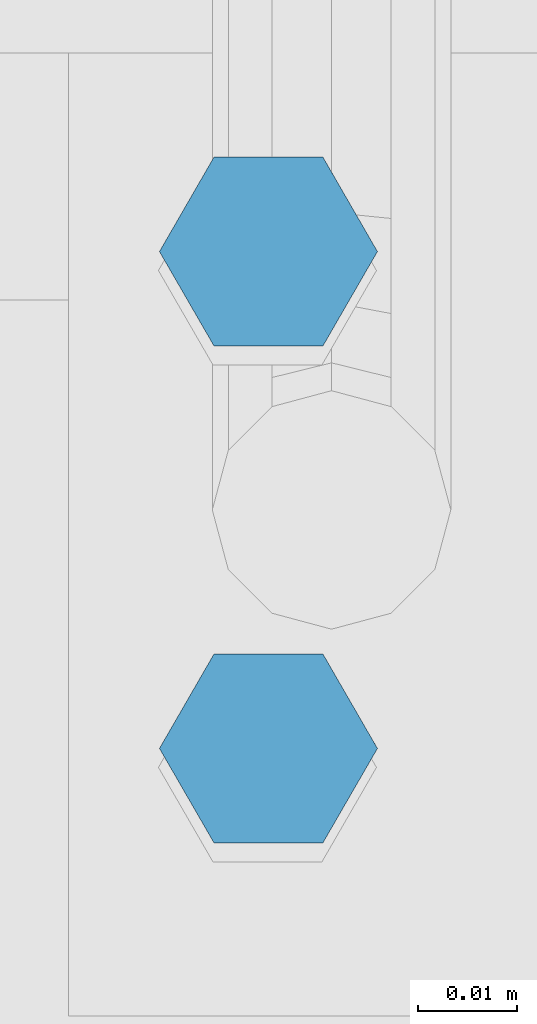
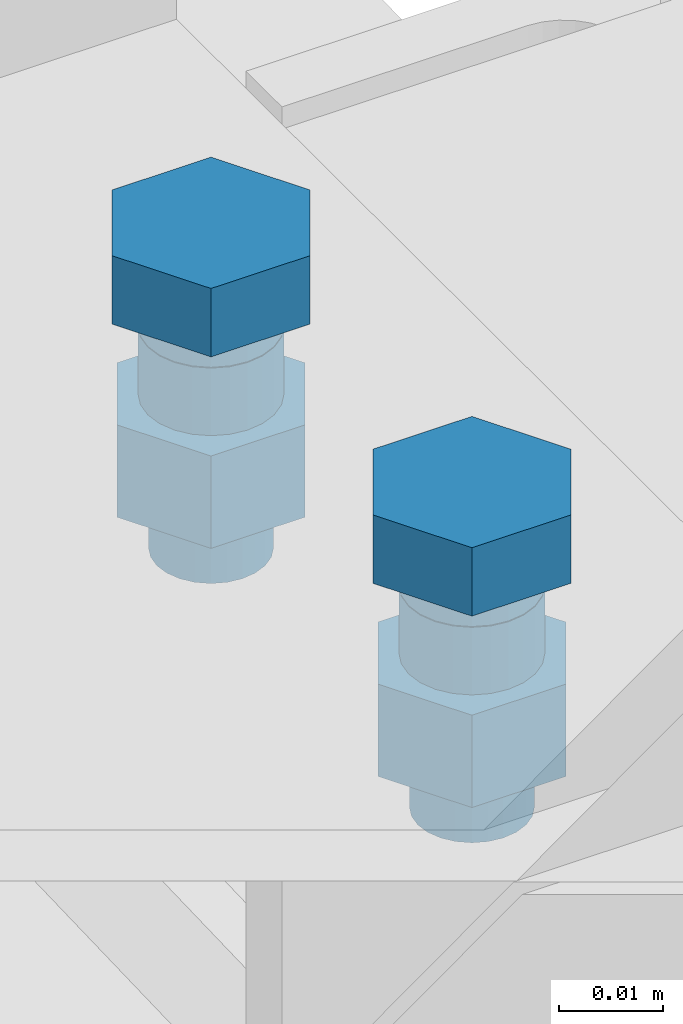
# One storey, part 19 of 21: 1 mechanical fastener.
"""IFC2X3 building model written with IfcOpenShell, lengths in millimetres."""

from ifc_helpers import new_model, si_unit, frame, origin_with_axes, place, context, project, spatial, faceted_brep, element, save


model = new_model("IFC2X3")

# Units and contexts
model_context_1 = context("Model", 3, precision=1e-05, world=origin_with_axes(), identifier="Body")
model_context_2 = context("Model", 3, precision=1e-05, world=origin_with_axes())
ifc_project = project(units=[si_unit("LENGTHUNIT", "METRE", prefix="MILLI"), si_unit("AREAUNIT", "SQUARE_METRE"), si_unit("VOLUMEUNIT", "CUBIC_METRE"), si_unit("MASSUNIT", "GRAM", prefix="KILO"), si_unit("TIMEUNIT", "SECOND"), si_unit("PLANEANGLEUNIT", "RADIAN"), si_unit("SOLIDANGLEUNIT", "STERADIAN"), si_unit("THERMODYNAMICTEMPERATUREUNIT", "DEGREE_CELSIUS"), si_unit("LUMINOUSINTENSITYUNIT", "LUMEN")], contexts=[model_context_1, model_context_2])

# Site, building, storey
site_placement = place(None, origin_with_axes())
site = spatial("IfcSite", under=ifc_project, at=site_placement, Name="Undefined", CompositionType="ELEMENT")
building_placement = place(site_placement, origin_with_axes())
building = spatial("IfcBuilding", under=site, at=building_placement, Name="Undefined", CompositionType="ELEMENT")
storey_placement = place(building_placement, origin_with_axes())
storey = spatial("IfcBuildingStorey", under=building, at=storey_placement, Name="Undefined", CompositionType="ELEMENT")

# Mechanical fastener
mechanical_fastener_placement = place(storey_placement, frame((-66.35, -154.9998, 6524.0), z_axis=(-6.2954093e-15, 1.0, 5.4700004e-05), x_axis=(1.0, 0.0, 0.0)))
element("IfcMechanicalFastener", 1, at=mechanical_fastener_placement, inside=storey, Name="Bolt assembly", NominalDiameter=12.0, NominalLength=30.0, context=model_context_1, shape_type="Brep", body=[
    faceted_brep([(10.969655, -18.000568, -25.0), (5.4848276, -18.000568, -15.5), (-5.4848276, -18.000568, -15.5), (-10.969655, -18.000568, -25.0), (-5.4848276, -18.000568, -34.5), (5.4848276, -18.000568, -34.5), (5.4848276, -10.000568, -34.5), (-5.4848276, -10.000568, -34.5), (-10.969655, -10.000568, -25.0), (-5.4848276, -10.000568, -15.5), (5.4848276, -10.000568, -15.5), (10.969655, -10.000568, -25.0), (6.0, -10.000568, -25.0), (5.795555, -10.000568, -23.447086), (5.1961524, -10.000568, -22.0), (4.2426407, -10.000568, -20.757359), (3.0, -10.000568, -19.803848), (1.5529143, -10.000568, -19.204445), (-6.2180159e-13, -10.000568, -19.0), (-1.5529143, -10.000568, -19.204445), (-3.0, -10.000568, -19.803848), (-4.2426407, -10.000568, -20.757359), (-5.1961524, -10.000568, -22.0), (-5.795555, -10.000568, -23.447086), (-6.0, -10.000568, -25.0), (-5.795555, -10.000568, -26.552914), (-5.1961524, -10.000568, -28.0), (-4.2426407, -10.000568, -29.242641), (-3.0, -10.000568, -30.196152), (-1.5529143, -10.000568, -30.795555), (1.8587434e-12, -10.000568, -31.0), (1.5529143, -10.000568, -30.795555), (3.0, -10.000568, -30.196152), (4.2426407, -10.000568, -29.242641), (5.1961524, -10.000568, -28.0), (5.795555, -10.000568, -26.552914), (5.795555, 19.999432, -26.552914), (5.1961524, 19.999432, -28.0), (4.2426407, 19.999432, -29.242641), (3.0, 19.999432, -30.196152), (1.5529143, 19.999432, -30.795555), (1.8587434e-12, 19.999432, -31.0), (-1.5529143, 19.999432, -30.795555), (-3.0, 19.999432, -30.196152), (-4.2426407, 19.999432, -29.242641), (-5.1961524, 19.999432, -28.0), (-5.795555, 19.999432, -26.552914), (-6.0, 19.999432, -25.0), (-5.795555, 19.999432, -23.447086), (-5.1961524, 19.999432, -22.0), (-4.2426407, 19.999432, -20.757359), (-3.0, 19.999432, -19.803848), (-1.5529143, 19.999432, -19.204445), (-6.2180159e-13, 19.999432, -19.0), (1.5529143, 19.999432, -19.204445), (3.0, 19.999432, -19.803848), (4.2426407, 19.999432, -20.757359), (5.1961524, 19.999432, -22.0), (5.795555, 19.999432, -23.447086), (6.0, 19.999432, -25.0), (10.392305, 1.9994325, -25.0), (5.1961524, 1.9994325, -16.0), (-5.1961524, 1.9994325, -16.0), (-10.392305, 1.9994325, -25.0), (-5.1961524, 1.9994325, -34.0), (5.1961524, 1.9994325, -34.0), (5.1961524, 12.799433, -34.0), (-5.1961524, 12.799433, -34.0), (-10.392305, 12.799433, -25.0), (-5.1961524, 12.799433, -16.0), (5.1961524, 12.799433, -16.0), (10.392305, 12.799433, -25.0), (10.969655, -18.000568, 25.0), (5.4848276, -18.000568, 34.5), (-5.4848276, -18.000568, 34.5), (-10.969655, -18.000568, 25.0), (-5.4848276, -18.000568, 15.5), (5.4848276, -18.000568, 15.5), (5.4848276, -10.000568, 15.5), (-5.4848276, -10.000568, 15.5), (-10.969655, -10.000568, 25.0), (-5.4848276, -10.000568, 34.5), (5.4848276, -10.000568, 34.5), (10.969655, -10.000568, 25.0), (6.0, -10.000568, 25.0), (5.795555, -10.000568, 26.552914), (5.1961524, -10.000568, 28.0), (4.2426407, -10.000568, 29.242641), (3.0, -10.000568, 30.196152), (1.5529143, -10.000568, 30.795555), (-6.2180159e-13, -10.000568, 31.0), (-1.5529143, -10.000568, 30.795555), (-3.0, -10.000568, 30.196152), (-4.2426407, -10.000568, 29.242641), (-5.1961524, -10.000568, 28.0), (-5.795555, -10.000568, 26.552914), (-6.0, -10.000568, 25.0), (-5.795555, -10.000568, 23.447086), (-5.1961524, -10.000568, 22.0), (-4.2426407, -10.000568, 20.757359), (-3.0, -10.000568, 19.803848), (-1.5529143, -10.000568, 19.204445), (1.8587434e-12, -10.000568, 19.0), (1.5529143, -10.000568, 19.204445), (3.0, -10.000568, 19.803848), (4.2426407, -10.000568, 20.757359), (5.1961524, -10.000568, 22.0), (5.795555, -10.000568, 23.447086), (5.795555, 19.999432, 23.447086), (5.1961524, 19.999432, 22.0), (4.2426407, 19.999432, 20.757359), (3.0, 19.999432, 19.803848), (1.5529143, 19.999432, 19.204445), (1.8587434e-12, 19.999432, 19.0), (-1.5529143, 19.999432, 19.204445), (-3.0, 19.999432, 19.803848), (-4.2426407, 19.999432, 20.757359), (-5.1961524, 19.999432, 22.0), (-5.795555, 19.999432, 23.447086), (-6.0, 19.999432, 25.0), (-5.795555, 19.999432, 26.552914), (-5.1961524, 19.999432, 28.0), (-4.2426407, 19.999432, 29.242641), (-3.0, 19.999432, 30.196152), (-1.5529143, 19.999432, 30.795555), (-6.2180159e-13, 19.999432, 31.0), (1.5529143, 19.999432, 30.795555), (3.0, 19.999432, 30.196152), (4.2426407, 19.999432, 29.242641), (5.1961524, 19.999432, 28.0), (5.795555, 19.999432, 26.552914), (6.0, 19.999432, 25.0), (10.392305, 1.9994325, 25.0), (5.1961524, 1.9994325, 34.0), (-5.1961524, 1.9994325, 34.0), (-10.392305, 1.9994325, 25.0), (-5.1961524, 1.9994325, 16.0), (5.1961524, 1.9994325, 16.0), (5.1961524, 12.799433, 16.0), (-5.1961524, 12.799433, 16.0), (-10.392305, 12.799433, 25.0), (-5.1961524, 12.799433, 34.0), (5.1961524, 12.799433, 34.0), (10.392305, 12.799433, 25.0)], [[[0, 1, 2, 3, 4, 5]], [[6, 7, 8, 9, 10, 11]], [[0, 11, 10, 1]], [[1, 10, 9, 2]], [[2, 9, 8, 3]], [[3, 8, 7, 4]], [[4, 7, 6, 5]], [[5, 6, 11, 0]], [[12, 13, 14, 15, 16, 17, 18, 19, 20, 21, 22, 23, 24, 25, 26, 27, 28, 29, 30, 31, 32, 33, 34, 35]], [[36, 37, 38, 39, 40, 41, 42, 43, 44, 45, 46, 47, 48, 49, 50, 51, 52, 53, 54, 55, 56, 57, 58, 59]], [[12, 59, 58, 13]], [[13, 58, 57, 14]], [[14, 57, 56, 15]], [[15, 56, 55, 16]], [[16, 55, 54, 17]], [[17, 54, 53, 18]], [[18, 53, 52, 19]], [[19, 52, 51, 20]], [[20, 51, 50, 21]], [[21, 50, 49, 22]], [[22, 49, 48, 23]], [[23, 48, 47, 24]], [[24, 47, 46, 25]], [[25, 46, 45, 26]], [[26, 45, 44, 27]], [[27, 44, 43, 28]], [[28, 43, 42, 29]], [[29, 42, 41, 30]], [[30, 41, 40, 31]], [[31, 40, 39, 32]], [[32, 39, 38, 33]], [[33, 38, 37, 34]], [[34, 37, 36, 35]], [[35, 36, 59, 12]], [[60, 61, 62, 63, 64, 65]], [[66, 67, 68, 69, 70, 71]], [[60, 71, 70, 61]], [[61, 70, 69, 62]], [[62, 69, 68, 63]], [[63, 68, 67, 64]], [[64, 67, 66, 65]], [[65, 66, 71, 60]], [[72, 73, 74, 75, 76, 77]], [[78, 79, 80, 81, 82, 83]], [[72, 83, 82, 73]], [[73, 82, 81, 74]], [[74, 81, 80, 75]], [[75, 80, 79, 76]], [[76, 79, 78, 77]], [[77, 78, 83, 72]], [[84, 85, 86, 87, 88, 89, 90, 91, 92, 93, 94, 95, 96, 97, 98, 99, 100, 101, 102, 103, 104, 105, 106, 107]], [[108, 109, 110, 111, 112, 113, 114, 115, 116, 117, 118, 119, 120, 121, 122, 123, 124, 125, 126, 127, 128, 129, 130, 131]], [[84, 131, 130, 85]], [[85, 130, 129, 86]], [[86, 129, 128, 87]], [[87, 128, 127, 88]], [[88, 127, 126, 89]], [[89, 126, 125, 90]], [[90, 125, 124, 91]], [[91, 124, 123, 92]], [[92, 123, 122, 93]], [[93, 122, 121, 94]], [[94, 121, 120, 95]], [[95, 120, 119, 96]], [[96, 119, 118, 97]], [[97, 118, 117, 98]], [[98, 117, 116, 99]], [[99, 116, 115, 100]], [[100, 115, 114, 101]], [[101, 114, 113, 102]], [[102, 113, 112, 103]], [[103, 112, 111, 104]], [[104, 111, 110, 105]], [[105, 110, 109, 106]], [[106, 109, 108, 107]], [[107, 108, 131, 84]], [[132, 133, 134, 135, 136, 137]], [[138, 139, 140, 141, 142, 143]], [[132, 143, 142, 133]], [[133, 142, 141, 134]], [[134, 141, 140, 135]], [[135, 140, 139, 136]], [[136, 139, 138, 137]], [[137, 138, 143, 132]]]),
    faceted_brep([(7.0, -5.9005675, -25.0), (6.7614808, -5.9005675, -23.188267), (6.0621778, -5.9005675, -21.5), (4.9497475, -5.9005675, -20.050253), (3.5, -5.9005675, -18.937822), (1.8117333, -5.9005675, -18.238519), (-7.2543519e-13, -5.9005675, -18.0), (-1.8117333, -5.9005675, -18.238519), (-3.5, -5.9005675, -18.937822), (-4.9497475, -5.9005675, -20.050253), (-6.0621778, -5.9005675, -21.5), (-6.7614808, -5.9005675, -23.188267), (-7.0, -5.9005675, -25.0), (-6.7614808, -5.9005675, -26.811733), (-6.0621778, -5.9005675, -28.5), (-4.9497475, -5.9005675, -29.949747), (-3.5, -5.9005675, -31.062178), (-1.8117333, -5.9005675, -31.761481), (2.168534e-12, -5.9005675, -32.0), (1.8117333, -5.9005675, -31.761481), (3.5, -5.9005675, -31.062178), (4.9497475, -5.9005675, -29.949747), (6.0621778, -5.9005675, -28.5), (6.7614808, -5.9005675, -26.811733), (6.7614808, 2.0994325, -26.811733), (6.0621778, 2.0994325, -28.5), (4.9497475, 2.0994325, -29.949747), (3.5, 2.0994325, -31.062178), (1.8117333, 2.0994325, -31.761481), (2.168534e-12, 2.0994325, -32.0), (-1.8117333, 2.0994325, -31.761481), (-3.5, 2.0994325, -31.062178), (-4.9497475, 2.0994325, -29.949747), (-6.0621778, 2.0994325, -28.5), (-6.7614808, 2.0994325, -26.811733), (-7.0, 2.0994325, -25.0), (-6.7614808, 2.0994325, -23.188267), (-6.0621778, 2.0994325, -21.5), (-4.9497475, 2.0994325, -20.050253), (-3.5, 2.0994325, -18.937822), (-1.8117333, 2.0994325, -18.238519), (-7.2543519e-13, 2.0994325, -18.0), (1.8117333, 2.0994325, -18.238519), (3.5, 2.0994325, -18.937822), (4.9497475, 2.0994325, -20.050253), (6.0621778, 2.0994325, -21.5), (6.7614808, 2.0994325, -23.188267), (7.0, 2.0994325, -25.0), (7.0, -10.100568, -25.0), (6.7614808, -10.100568, -23.188267), (6.0621778, -10.100568, -21.5), (4.9497475, -10.100568, -20.050253), (3.5, -10.100568, -18.937822), (1.8117333, -10.100568, -18.238519), (-7.2543519e-13, -10.100568, -18.0), (-1.8117333, -10.100568, -18.238519), (-3.5, -10.100568, -18.937822), (-4.9497475, -10.100568, -20.050253), (-6.0621778, -10.100568, -21.5), (-6.7614808, -10.100568, -23.188267), (-7.0, -10.100568, -25.0), (-6.7614808, -10.100568, -26.811733), (-6.0621778, -10.100568, -28.5), (-4.9497475, -10.100568, -29.949747), (-3.5, -10.100568, -31.062178), (-1.8117333, -10.100568, -31.761481), (2.168534e-12, -10.100568, -32.0), (1.8117333, -10.100568, -31.761481), (3.5, -10.100568, -31.062178), (4.9497475, -10.100568, -29.949747), (6.0621778, -10.100568, -28.5), (6.7614808, -10.100568, -26.811733), (6.7614808, -6.0005675, -26.811733), (6.0621778, -6.0005675, -28.5), (4.9497475, -6.0005675, -29.949747), (3.5, -6.0005675, -31.062178), (1.8117333, -6.0005675, -31.761481), (2.168534e-12, -6.0005675, -32.0), (-1.8117333, -6.0005675, -31.761481), (-3.5, -6.0005675, -31.062178), (-4.9497475, -6.0005675, -29.949747), (-6.0621778, -6.0005675, -28.5), (-6.7614808, -6.0005675, -26.811733), (-7.0, -6.0005675, -25.0), (-6.7614808, -6.0005675, -23.188267), (-6.0621778, -6.0005675, -21.5), (-4.9497475, -6.0005675, -20.050253), (-3.5, -6.0005675, -18.937822), (-1.8117333, -6.0005675, -18.238519), (-7.2543519e-13, -6.0005675, -18.0), (1.8117333, -6.0005675, -18.238519), (3.5, -6.0005675, -18.937822), (4.9497475, -6.0005675, -20.050253), (6.0621778, -6.0005675, -21.5), (6.7614808, -6.0005675, -23.188267), (7.0, -6.0005675, -25.0), (7.0, -5.9005675, 25.0), (6.7614808, -5.9005675, 26.811733), (6.0621778, -5.9005675, 28.5), (4.9497475, -5.9005675, 29.949747), (3.5, -5.9005675, 31.062178), (1.8117333, -5.9005675, 31.761481), (-7.2543519e-13, -5.9005675, 32.0), (-1.8117333, -5.9005675, 31.761481), (-3.5, -5.9005675, 31.062178), (-4.9497475, -5.9005675, 29.949747), (-6.0621778, -5.9005675, 28.5), (-6.7614808, -5.9005675, 26.811733), (-7.0, -5.9005675, 25.0), (-6.7614808, -5.9005675, 23.188267), (-6.0621778, -5.9005675, 21.5), (-4.9497475, -5.9005675, 20.050253), (-3.5, -5.9005675, 18.937822), (-1.8117333, -5.9005675, 18.238519), (2.168534e-12, -5.9005675, 18.0), (1.8117333, -5.9005675, 18.238519), (3.5, -5.9005675, 18.937822), (4.9497475, -5.9005675, 20.050253), (6.0621778, -5.9005675, 21.5), (6.7614808, -5.9005675, 23.188267), (6.7614808, 2.0994325, 23.188267), (6.0621778, 2.0994325, 21.5), (4.9497475, 2.0994325, 20.050253), (3.5, 2.0994325, 18.937822), (1.8117333, 2.0994325, 18.238519), (2.168534e-12, 2.0994325, 18.0), (-1.8117333, 2.0994325, 18.238519), (-3.5, 2.0994325, 18.937822), (-4.9497475, 2.0994325, 20.050253), (-6.0621778, 2.0994325, 21.5), (-6.7614808, 2.0994325, 23.188267), (-7.0, 2.0994325, 25.0), (-6.7614808, 2.0994325, 26.811733), (-6.0621778, 2.0994325, 28.5), (-4.9497475, 2.0994325, 29.949747), (-3.5, 2.0994325, 31.062178), (-1.8117333, 2.0994325, 31.761481), (-7.2543519e-13, 2.0994325, 32.0), (1.8117333, 2.0994325, 31.761481), (3.5, 2.0994325, 31.062178), (4.9497475, 2.0994325, 29.949747), (6.0621778, 2.0994325, 28.5), (6.7614808, 2.0994325, 26.811733), (7.0, 2.0994325, 25.0), (7.0, -10.100568, 25.0), (6.7614808, -10.100568, 26.811733), (6.0621778, -10.100568, 28.5), (4.9497475, -10.100568, 29.949747), (3.5, -10.100568, 31.062178), (1.8117333, -10.100568, 31.761481), (-7.2543519e-13, -10.100568, 32.0), (-1.8117333, -10.100568, 31.761481), (-3.5, -10.100568, 31.062178), (-4.9497475, -10.100568, 29.949747), (-6.0621778, -10.100568, 28.5), (-6.7614808, -10.100568, 26.811733), (-7.0, -10.100568, 25.0), (-6.7614808, -10.100568, 23.188267), (-6.0621778, -10.100568, 21.5), (-4.9497475, -10.100568, 20.050253), (-3.5, -10.100568, 18.937822), (-1.8117333, -10.100568, 18.238519), (2.168534e-12, -10.100568, 18.0), (1.8117333, -10.100568, 18.238519), (3.5, -10.100568, 18.937822), (4.9497475, -10.100568, 20.050253), (6.0621778, -10.100568, 21.5), (6.7614808, -10.100568, 23.188267), (6.7614808, -6.0005675, 23.188267), (6.0621778, -6.0005675, 21.5), (4.9497475, -6.0005675, 20.050253), (3.5, -6.0005675, 18.937822), (1.8117333, -6.0005675, 18.238519), (2.168534e-12, -6.0005675, 18.0), (-1.8117333, -6.0005675, 18.238519), (-3.5, -6.0005675, 18.937822), (-4.9497475, -6.0005675, 20.050253), (-6.0621778, -6.0005675, 21.5), (-6.7614808, -6.0005675, 23.188267), (-7.0, -6.0005675, 25.0), (-6.7614808, -6.0005675, 26.811733), (-6.0621778, -6.0005675, 28.5), (-4.9497475, -6.0005675, 29.949747), (-3.5, -6.0005675, 31.062178), (-1.8117333, -6.0005675, 31.761481), (-7.2543519e-13, -6.0005675, 32.0), (1.8117333, -6.0005675, 31.761481), (3.5, -6.0005675, 31.062178), (4.9497475, -6.0005675, 29.949747), (6.0621778, -6.0005675, 28.5), (6.7614808, -6.0005675, 26.811733), (7.0, -6.0005675, 25.0)], [[[0, 1, 2, 3, 4, 5, 6, 7, 8, 9, 10, 11, 12, 13, 14, 15, 16, 17, 18, 19, 20, 21, 22, 23]], [[24, 25, 26, 27, 28, 29, 30, 31, 32, 33, 34, 35, 36, 37, 38, 39, 40, 41, 42, 43, 44, 45, 46, 47]], [[0, 47, 46, 1]], [[1, 46, 45, 2]], [[2, 45, 44, 3]], [[3, 44, 43, 4]], [[4, 43, 42, 5]], [[5, 42, 41, 6]], [[6, 41, 40, 7]], [[7, 40, 39, 8]], [[8, 39, 38, 9]], [[9, 38, 37, 10]], [[10, 37, 36, 11]], [[11, 36, 35, 12]], [[12, 35, 34, 13]], [[13, 34, 33, 14]], [[14, 33, 32, 15]], [[15, 32, 31, 16]], [[16, 31, 30, 17]], [[17, 30, 29, 18]], [[18, 29, 28, 19]], [[19, 28, 27, 20]], [[20, 27, 26, 21]], [[21, 26, 25, 22]], [[22, 25, 24, 23]], [[23, 24, 47, 0]], [[48, 49, 50, 51, 52, 53, 54, 55, 56, 57, 58, 59, 60, 61, 62, 63, 64, 65, 66, 67, 68, 69, 70, 71]], [[72, 73, 74, 75, 76, 77, 78, 79, 80, 81, 82, 83, 84, 85, 86, 87, 88, 89, 90, 91, 92, 93, 94, 95]], [[48, 95, 94, 49]], [[49, 94, 93, 50]], [[50, 93, 92, 51]], [[51, 92, 91, 52]], [[52, 91, 90, 53]], [[53, 90, 89, 54]], [[54, 89, 88, 55]], [[55, 88, 87, 56]], [[56, 87, 86, 57]], [[57, 86, 85, 58]], [[58, 85, 84, 59]], [[59, 84, 83, 60]], [[60, 83, 82, 61]], [[61, 82, 81, 62]], [[62, 81, 80, 63]], [[63, 80, 79, 64]], [[64, 79, 78, 65]], [[65, 78, 77, 66]], [[66, 77, 76, 67]], [[67, 76, 75, 68]], [[68, 75, 74, 69]], [[69, 74, 73, 70]], [[70, 73, 72, 71]], [[71, 72, 95, 48]], [[96, 97, 98, 99, 100, 101, 102, 103, 104, 105, 106, 107, 108, 109, 110, 111, 112, 113, 114, 115, 116, 117, 118, 119]], [[120, 121, 122, 123, 124, 125, 126, 127, 128, 129, 130, 131, 132, 133, 134, 135, 136, 137, 138, 139, 140, 141, 142, 143]], [[96, 143, 142, 97]], [[97, 142, 141, 98]], [[98, 141, 140, 99]], [[99, 140, 139, 100]], [[100, 139, 138, 101]], [[101, 138, 137, 102]], [[102, 137, 136, 103]], [[103, 136, 135, 104]], [[104, 135, 134, 105]], [[105, 134, 133, 106]], [[106, 133, 132, 107]], [[107, 132, 131, 108]], [[108, 131, 130, 109]], [[109, 130, 129, 110]], [[110, 129, 128, 111]], [[111, 128, 127, 112]], [[112, 127, 126, 113]], [[113, 126, 125, 114]], [[114, 125, 124, 115]], [[115, 124, 123, 116]], [[116, 123, 122, 117]], [[117, 122, 121, 118]], [[118, 121, 120, 119]], [[119, 120, 143, 96]], [[144, 145, 146, 147, 148, 149, 150, 151, 152, 153, 154, 155, 156, 157, 158, 159, 160, 161, 162, 163, 164, 165, 166, 167]], [[168, 169, 170, 171, 172, 173, 174, 175, 176, 177, 178, 179, 180, 181, 182, 183, 184, 185, 186, 187, 188, 189, 190, 191]], [[144, 191, 190, 145]], [[145, 190, 189, 146]], [[146, 189, 188, 147]], [[147, 188, 187, 148]], [[148, 187, 186, 149]], [[149, 186, 185, 150]], [[150, 185, 184, 151]], [[151, 184, 183, 152]], [[152, 183, 182, 153]], [[153, 182, 181, 154]], [[154, 181, 180, 155]], [[155, 180, 179, 156]], [[156, 179, 178, 157]], [[157, 178, 177, 158]], [[158, 177, 176, 159]], [[159, 176, 175, 160]], [[160, 175, 174, 161]], [[161, 174, 173, 162]], [[162, 173, 172, 163]], [[163, 172, 171, 164]], [[164, 171, 170, 165]], [[165, 170, 169, 166]], [[166, 169, 168, 167]], [[167, 168, 191, 144]]]),
])

save(model, "model.ifc")
